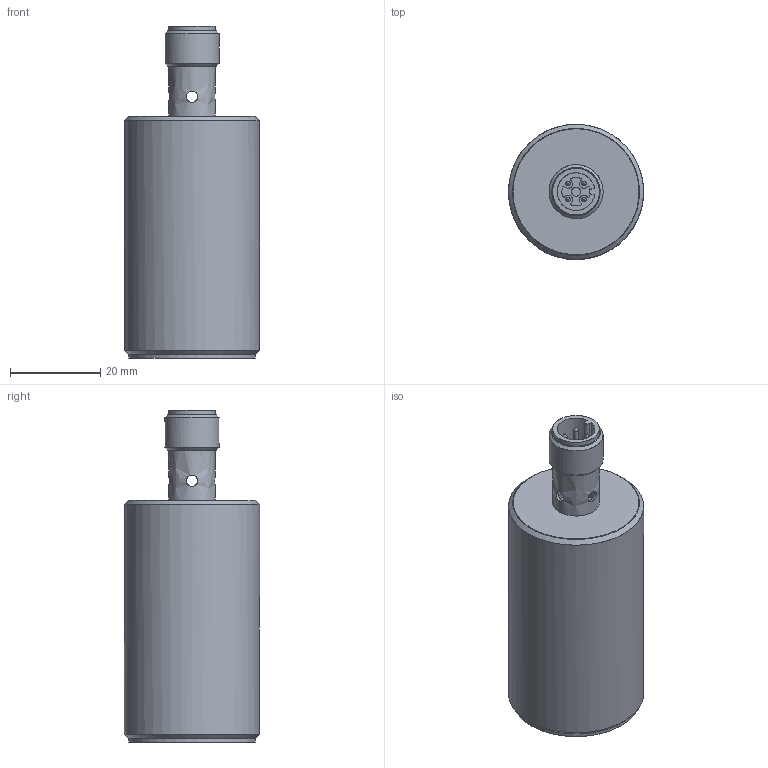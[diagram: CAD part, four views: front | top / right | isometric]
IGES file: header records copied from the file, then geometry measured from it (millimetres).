
Global section: file name: D:\dd\DSD-0312.igs; preprocessor: I-DEAS 3D IGES Translator 13; date: 20100121.161130; units: millimetre
Bounding box: 29.97 x 29.99 x 73.7 mm (x, y, z)
Surface area: 13051.2 mm2
Topology: 4 solids, 4 shells, 79 faces, 514 edges, 452 vertices
Faces by surface type: bspline 79
